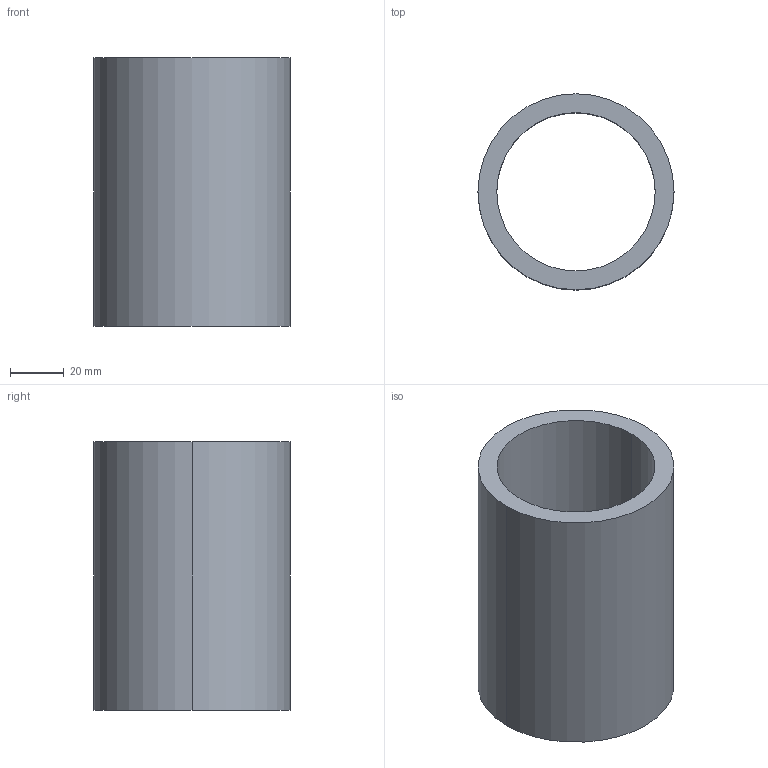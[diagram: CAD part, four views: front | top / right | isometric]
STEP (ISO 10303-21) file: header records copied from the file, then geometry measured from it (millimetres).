
FILE_DESCRIPTION (( 'STEP AP214' ), '1' );
FILE_NAME ('CCJ029-234 - TUBE GARDE CORPS AMOVIBLE.STEP', '2024-01-12T06:47:40', ( '' ), ( '' ), 'SwSTEP 2.0', 'SolidWorks 2021', '' );
FILE_SCHEMA (( 'AUTOMOTIVE_DESIGN' ));
Length unit declared in the file: millimetre
Products named in the file (1): CCJ029-234 - TUBE GARDE CORPS AMOVIBLE
Bounding box: 73 x 73 x 100 mm (x, y, z)
Volume: 145326.9 mm3; surface area: 44369.3 mm2
Topology: 1 solids, 1 shells, 6 faces, 12 edges, 8 vertices
Faces by surface type: cylinder 4, plane 2
Entity records: 202 total; most frequent: DIRECTION 34, CARTESIAN_POINT 27, ORIENTED_EDGE 24, AXIS2_PLACEMENT_3D 15, EDGE_CURVE 12, EDGE_LOOP 8, CIRCLE 8, VERTEX_POINT 8
